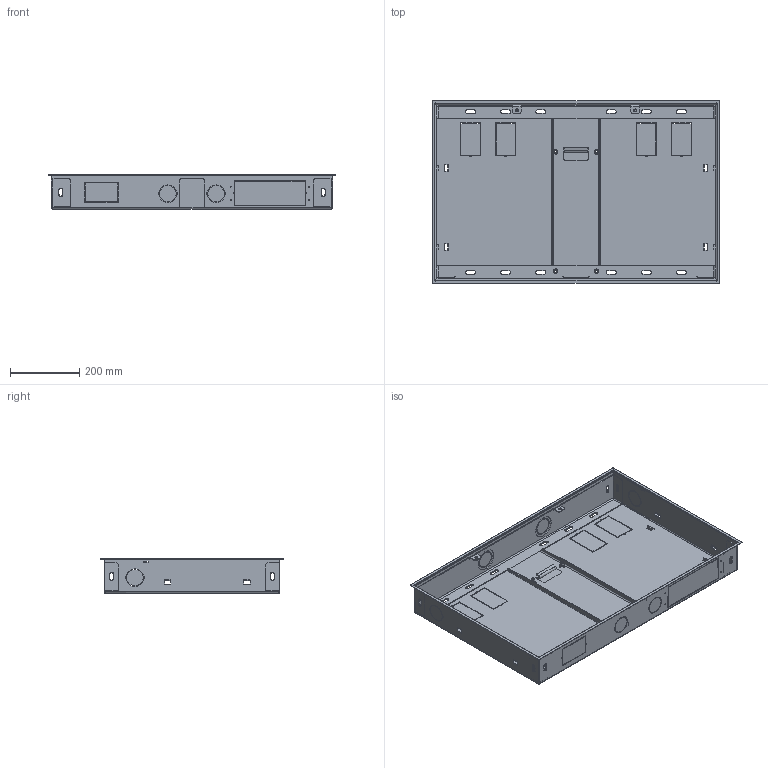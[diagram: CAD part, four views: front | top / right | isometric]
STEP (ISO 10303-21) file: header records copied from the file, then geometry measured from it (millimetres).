
FILE_DESCRIPTION (( 'STEP AP214' ), '1' );
FILE_NAME ('318-001-005.STEP', '2019-04-12T14:52:48', ( '' ), ( '' ), 'SwSTEP 2.0', 'SolidWorks 2015', '' );
FILE_SCHEMA (( 'AUTOMOTIVE_DESIGN' ));
Length unit declared in the file: inch
Products named in the file (1): 318-001-005
Bounding box: 832.17 x 527.37 x 99.23 mm (x, y, z)
Surface area: 1743300.1 mm2 (no closed solid volume)
Topology: 0 solids, 16 shells, 775 faces, 2682 edges, 1800 vertices
Faces by surface type: plane 385, cylinder 346, bspline 24, cone 20
Entity records: 40359 total; most frequent: CARTESIAN_POINT 6686, DIRECTION 5046, ORIENTED_EDGE 4502, EDGE_CURVE 2682, VERTEX_POINT 1800, VECTOR 1718, LINE 1718, AXIS2_PLACEMENT_3D 1664
